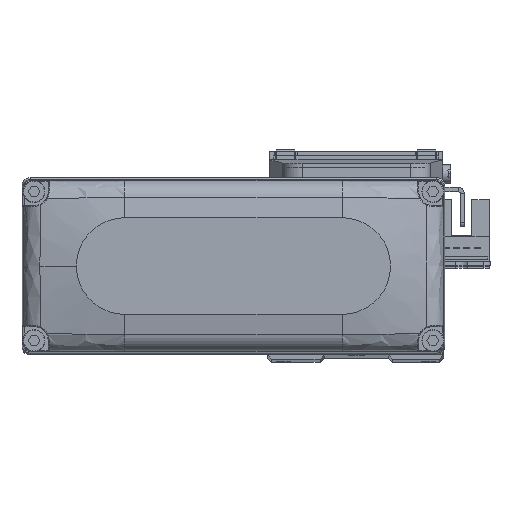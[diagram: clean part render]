
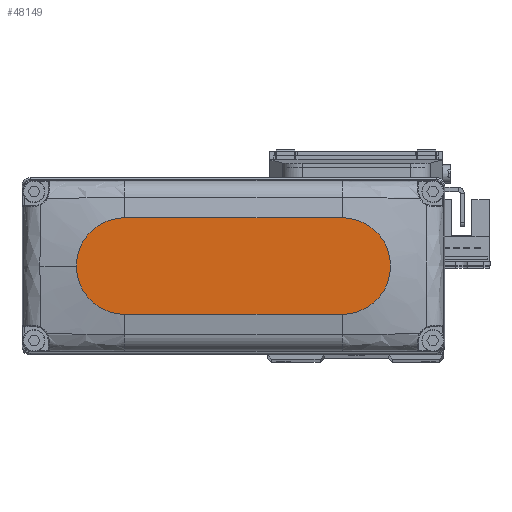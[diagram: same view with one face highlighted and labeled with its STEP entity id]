
A CAD part, top view. The second image highlights one B-rep face of the part: STEP entity #48149.
In plain terms, the highlighted planar face has unit normal (0, 0, 1).
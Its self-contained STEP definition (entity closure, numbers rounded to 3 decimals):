
#1603 = EDGE_CURVE ( 'NONE', #76731, #13713, #35587, .T. ) ;
#3309 = PLANE ( 'NONE',  #50192 ) ;
#4600 = CARTESIAN_POINT ( 'NONE',  ( 27., 0., 25. ) ) ;
#5640 = DIRECTION ( 'NONE',  ( -1., 0., 0. ) ) ;
#6228 = EDGE_CURVE ( 'NONE', #74838, #17630, #49327, .T. ) ;
#6888 = CIRCLE ( 'NONE', #60995, 12. ) ;
#13713 = VERTEX_POINT ( 'NONE', #40992 ) ;
#14979 = CARTESIAN_POINT ( 'NONE',  ( -27., 0., 25. ) ) ;
#16428 = AXIS2_PLACEMENT_3D ( 'NONE', #14979, #39010, #63028 ) ;
#17592 = ORIENTED_EDGE ( 'NONE', *, *, #74515, .T. ) ;
#17630 = VERTEX_POINT ( 'NONE', #17928 ) ;
#17928 = CARTESIAN_POINT ( 'NONE',  ( 27., -12., 25. ) ) ;
#18770 = VECTOR ( 'NONE', #19357, 1000. ) ;
#19357 = DIRECTION ( 'NONE',  ( 1., 0., 0. ) ) ;
#20687 = CARTESIAN_POINT ( 'NONE',  ( 27., 0., 25. ) ) ;
#21494 = CARTESIAN_POINT ( 'NONE',  ( 27., 12., 25. ) ) ;
#24486 = ORIENTED_EDGE ( 'NONE', *, *, #1603, .T. ) ;
#25016 = AXIS2_PLACEMENT_3D ( 'NONE', #20687, #44721, #68723 ) ;
#27334 = CARTESIAN_POINT ( 'NONE',  ( 0., 0., 25. ) ) ;
#28156 = VECTOR ( 'NONE', #5640, 1000. ) ;
#28620 = DIRECTION ( 'NONE',  ( 0., 0., 1. ) ) ;
#32388 = EDGE_CURVE ( 'NONE', #17630, #65553, #6888, .T. ) ;
#35587 = LINE ( 'NONE', #59616, #28156 ) ;
#39010 = DIRECTION ( 'NONE',  ( 0., 0., 1. ) ) ;
#40992 = CARTESIAN_POINT ( 'NONE',  ( -27., 12., 25. ) ) ;
#41854 = ORIENTED_EDGE ( 'NONE', *, *, #32388, .T. ) ;
#44721 = DIRECTION ( 'NONE',  ( 0., 0., 1. ) ) ;
#44806 = ORIENTED_EDGE ( 'NONE', *, *, #73271, .T. ) ;
#46379 = ORIENTED_EDGE ( 'NONE', *, *, #6228, .T. ) ;
#48106 = CARTESIAN_POINT ( 'NONE',  ( 39., 0., 25. ) ) ;
#48149 = ADVANCED_FACE ( 'NONE', ( #57302 ), #3309, .T. ) ;
#49327 = LINE ( 'NONE', #73296, #18770 ) ;
#50192 = AXIS2_PLACEMENT_3D ( 'NONE', #27334, #51395, #75376 ) ;
#50406 = CIRCLE ( 'NONE', #16428, 12. ) ;
#51395 = DIRECTION ( 'NONE',  ( 0., 0., 1. ) ) ;
#52682 = DIRECTION ( 'NONE',  ( 1., 0., 0. ) ) ;
#57302 = FACE_OUTER_BOUND ( 'NONE', #63969, .T. ) ;
#59009 = CIRCLE ( 'NONE', #25016, 12. ) ;
#59616 = CARTESIAN_POINT ( 'NONE',  ( -27., 12., 25. ) ) ;
#60995 = AXIS2_PLACEMENT_3D ( 'NONE', #4600, #28620, #52682 ) ;
#63028 = DIRECTION ( 'NONE',  ( 1., 0., 0. ) ) ;
#63969 = EDGE_LOOP ( 'NONE', ( #24486, #17592, #46379, #41854, #44806 ) ) ;
#65553 = VERTEX_POINT ( 'NONE', #48106 ) ;
#67281 = CARTESIAN_POINT ( 'NONE',  ( -27., -12., 25. ) ) ;
#68723 = DIRECTION ( 'NONE',  ( 1., 0., 0. ) ) ;
#73271 = EDGE_CURVE ( 'NONE', #65553, #76731, #59009, .T. ) ;
#73296 = CARTESIAN_POINT ( 'NONE',  ( -27., -12., 25. ) ) ;
#74515 = EDGE_CURVE ( 'NONE', #13713, #74838, #50406, .T. ) ;
#74838 = VERTEX_POINT ( 'NONE', #67281 ) ;
#75376 = DIRECTION ( 'NONE',  ( 1., 0., 0. ) ) ;
#76731 = VERTEX_POINT ( 'NONE', #21494 ) ;
